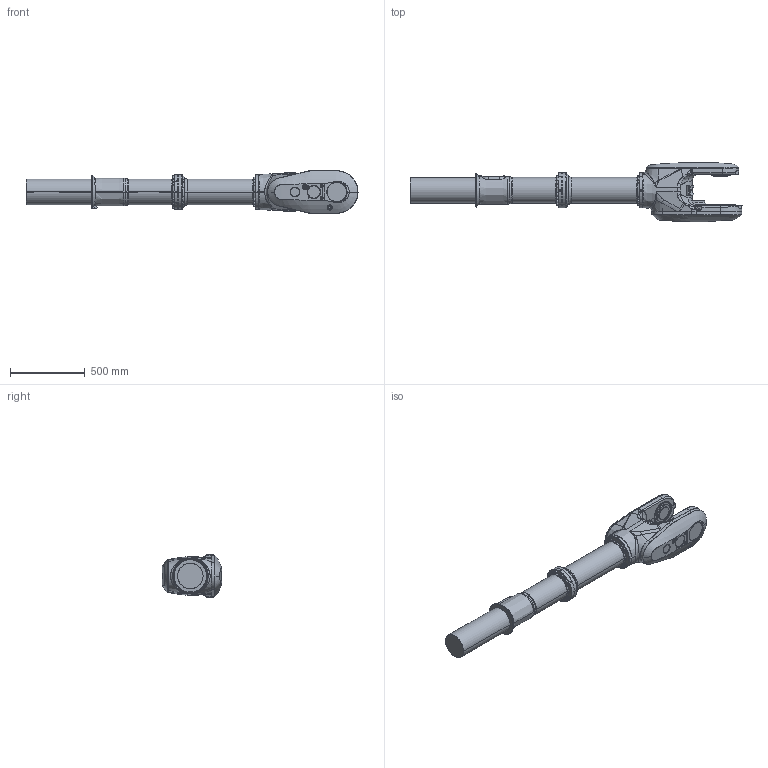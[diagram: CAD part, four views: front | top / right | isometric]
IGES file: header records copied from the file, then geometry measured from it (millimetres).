
Start section: SolidWorks IGES file using analytic representation for surfaces
Global section: file name: C:\Data\SAP_DOC\IRB6740_lightweight\6750S\IRB 6750S ASM\IRB6750S-LID-SW_185kg-390_OC_01_SW_J\IRB6750S-LID-SW_185kg-390_OC_01_IGES_J\IRB6750S_All-390_OC_00_LINK04_CAD.igs; native system: SolidWorks 2024; preprocessor: SolidWorks 2024; author: SEJAOLS6; date: 260513.074111; units: millimetre
Bounding box: 2217.5 x 395.55 x 284 mm (x, y, z)
Surface area: 1832518.4 mm2 (no closed solid volume)
Topology: 0 solids, 0 shells, 816 faces, 14875 edges, 14846 vertices
Faces by surface type: bspline 455, revolution 361
